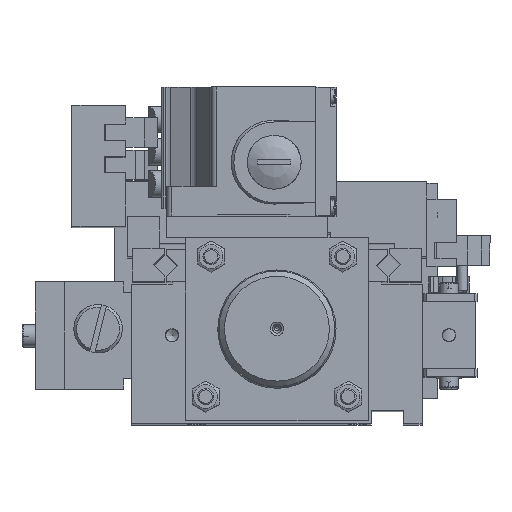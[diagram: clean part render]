
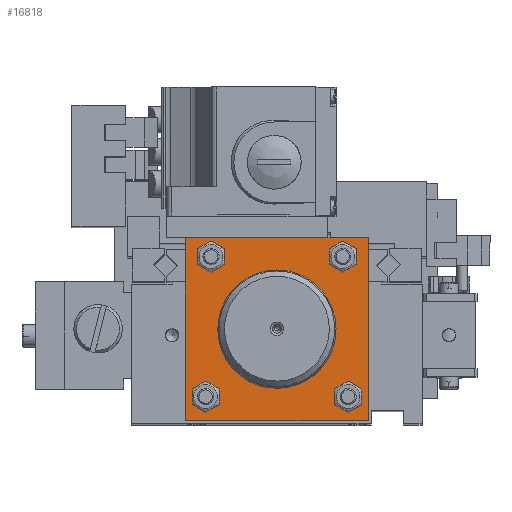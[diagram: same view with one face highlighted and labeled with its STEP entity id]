
A CAD part, top view. The second image highlights one B-rep face of the part: STEP entity #16818.
In plain terms, the highlighted planar face has unit normal (0, 0, 1).
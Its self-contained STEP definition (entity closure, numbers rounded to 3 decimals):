
#8749=CARTESIAN_POINT('',(-18.646,34.,370.));
#8750=VERTEX_POINT('',#8749);
#8758=CARTESIAN_POINT('',(-16.354,34.,370.));
#8759=VERTEX_POINT('',#8758);
#9241=CARTESIAN_POINT('',(-30.646,34.,370.));
#9242=VERTEX_POINT('',#9241);
#9250=CARTESIAN_POINT('',(-28.354,34.,370.));
#9251=VERTEX_POINT('',#9250);
#9597=CARTESIAN_POINT('',(11.354,34.,370.));
#9598=VERTEX_POINT('',#9597);
#9606=CARTESIAN_POINT('',(13.646,34.,370.));
#9607=VERTEX_POINT('',#9606);
#10099=CARTESIAN_POINT('',(19.,34.,370.));
#10100=VERTEX_POINT('',#10099);
#10204=CARTESIAN_POINT('',(-34.,34.,370.));
#10205=VERTEX_POINT('',#10204);
#10206=CARTESIAN_POINT('',(-34.,34.,370.));
#10207=DIRECTION('',(1.0,0.0,0.0));
#10208=VECTOR('',#10207,3.354);
#10209=LINE('',#10206,#10208);
#10210=EDGE_CURVE('',#10205,#9242,#10209,.T.);
#10213=CARTESIAN_POINT('',(-28.354,34.,370.));
#10214=DIRECTION('',(1.0,0.0,0.0));
#10215=VECTOR('',#10214,9.709);
#10216=LINE('',#10213,#10215);
#10217=EDGE_CURVE('',#9251,#8750,#10216,.T.);
#10220=CARTESIAN_POINT('',(-16.354,34.,370.));
#10221=DIRECTION('',(1.0,0.0,0.0));
#10222=VECTOR('',#10221,27.709);
#10223=LINE('',#10220,#10222);
#10224=EDGE_CURVE('',#8759,#9598,#10223,.T.);
#10227=CARTESIAN_POINT('',(13.646,34.,370.));
#10228=DIRECTION('',(1.0,0.0,0.0));
#10229=VECTOR('',#10228,5.354);
#10230=LINE('',#10227,#10229);
#10231=EDGE_CURVE('',#9607,#10100,#10230,.T.);
#10305=CARTESIAN_POINT('',(34.,34.,370.));
#10306=VERTEX_POINT('',#10305);
#10307=CARTESIAN_POINT('',(19.,34.,370.));
#10308=DIRECTION('',(1.0,0.0,0.0));
#10309=VECTOR('',#10308,15.);
#10310=LINE('',#10307,#10309);
#10311=EDGE_CURVE('',#10100,#10306,#10310,.T.);
#10336=CARTESIAN_POINT('',(11.354,34.,370.));
#10337=DIRECTION('',(1.0,0.0,0.0));
#10338=VECTOR('',#10337,2.291);
#10339=LINE('',#10336,#10338);
#10340=EDGE_CURVE('',#9598,#9607,#10339,.T.);
#10352=CARTESIAN_POINT('',(-18.646,34.,370.));
#10353=DIRECTION('',(1.0,0.0,0.0));
#10354=VECTOR('',#10353,2.291);
#10355=LINE('',#10352,#10354);
#10356=EDGE_CURVE('',#8750,#8759,#10355,.T.);
#16721=CARTESIAN_POINT('',(0.,0.,370.));
#16722=DIRECTION('',(0.0,0.0,1.0));
#16723=DIRECTION('',(1.0,0.0,0.0));
#16724=AXIS2_PLACEMENT_3D('',#16721,#16722,#16723);
#16725=PLANE('',#16724);
#16726=CARTESIAN_POINT('',(34.,-34.,370.));
#16727=VERTEX_POINT('',#16726);
#16728=CARTESIAN_POINT('',(34.,34.,370.));
#16729=DIRECTION('',(0.0,-1.0,0.0));
#16730=VECTOR('',#16729,68.0);
#16731=LINE('',#16728,#16730);
#16732=EDGE_CURVE('',#10306,#16727,#16731,.T.);
#16733=ORIENTED_EDGE('',*,*,#16732,.F.);
#16734=ORIENTED_EDGE('',*,*,#10311,.F.);
#16735=ORIENTED_EDGE('',*,*,#10231,.F.);
#16736=ORIENTED_EDGE('',*,*,#10340,.F.);
#16737=ORIENTED_EDGE('',*,*,#10224,.F.);
#16738=ORIENTED_EDGE('',*,*,#10356,.F.);
#16739=ORIENTED_EDGE('',*,*,#10217,.F.);
#16740=CARTESIAN_POINT('',(-30.646,34.,370.));
#16741=DIRECTION('',(1.0,0.0,0.0));
#16742=VECTOR('',#16741,2.291);
#16743=LINE('',#16740,#16742);
#16744=EDGE_CURVE('',#9242,#9251,#16743,.T.);
#16745=ORIENTED_EDGE('',*,*,#16744,.F.);
#16746=ORIENTED_EDGE('',*,*,#10210,.F.);
#16747=CARTESIAN_POINT('',(-34.,-34.,370.));
#16748=VERTEX_POINT('',#16747);
#16749=CARTESIAN_POINT('',(-34.,-34.,370.));
#16750=DIRECTION('',(0.0,1.0,0.0));
#16751=VECTOR('',#16750,68.0);
#16752=LINE('',#16749,#16751);
#16753=EDGE_CURVE('',#16748,#10205,#16752,.T.);
#16754=ORIENTED_EDGE('',*,*,#16753,.F.);
#16755=CARTESIAN_POINT('',(34.,-34.,370.));
#16756=DIRECTION('',(-1.0,0.0,0.0));
#16757=VECTOR('',#16756,68.0);
#16758=LINE('',#16755,#16757);
#16759=EDGE_CURVE('',#16727,#16748,#16758,.T.);
#16760=ORIENTED_EDGE('',*,*,#16759,.F.);
#16761=EDGE_LOOP('',(#16733,#16734,#16735,#16736,#16737,#16738,#16739,#16745,#16746,#16754,#16760));
#16762=FACE_OUTER_BOUND('',#16761,.T.);
#16763=CARTESIAN_POINT('',(-16.932,14.046,370.));
#16764=VERTEX_POINT('',#16763);
#16765=CARTESIAN_POINT('',(0.,0.,370.));
#16766=DIRECTION('',(0.,0.,-1.0));
#16767=DIRECTION('',(-0.77,0.638,0.));
#16768=AXIS2_PLACEMENT_3D('',#16765,#16766,#16767);
#16769=CIRCLE('',#16768,22.);
#16770=EDGE_CURVE('',#16764,#16764,#16769,.T.);
#16771=ORIENTED_EDGE('',*,*,#16770,.T.);
#16772=EDGE_LOOP('',(#16771));
#16773=FACE_BOUND('',#16772,.T.);
#16774=CARTESIAN_POINT('',(26.5,-29.5,370.));
#16775=VERTEX_POINT('',#16774);
#16776=CARTESIAN_POINT('',(26.5,-25.1,370.));
#16777=DIRECTION('',(0.0,0.0,-1.0));
#16778=DIRECTION('',(0.0,-1.0,0.0));
#16779=AXIS2_PLACEMENT_3D('',#16776,#16777,#16778);
#16780=CIRCLE('',#16779,4.4);
#16781=EDGE_CURVE('',#16775,#16775,#16780,.T.);
#16782=ORIENTED_EDGE('',*,*,#16781,.T.);
#16783=EDGE_LOOP('',(#16782));
#16784=FACE_BOUND('',#16783,.T.);
#16785=CARTESIAN_POINT('',(-24.5,22.6,370.));
#16786=VERTEX_POINT('',#16785);
#16787=CARTESIAN_POINT('',(-24.5,27.,370.));
#16788=DIRECTION('',(0.0,0.0,-1.0));
#16789=DIRECTION('',(0.0,-1.0,0.0));
#16790=AXIS2_PLACEMENT_3D('',#16787,#16788,#16789);
#16791=CIRCLE('',#16790,4.4);
#16792=EDGE_CURVE('',#16786,#16786,#16791,.T.);
#16793=ORIENTED_EDGE('',*,*,#16792,.T.);
#16794=EDGE_LOOP('',(#16793));
#16795=FACE_BOUND('',#16794,.T.);
#16796=CARTESIAN_POINT('',(-26.5,-29.5,370.));
#16797=VERTEX_POINT('',#16796);
#16798=CARTESIAN_POINT('',(-26.5,-25.1,370.));
#16799=DIRECTION('',(0.0,0.0,-1.0));
#16800=DIRECTION('',(0.0,-1.0,0.0));
#16801=AXIS2_PLACEMENT_3D('',#16798,#16799,#16800);
#16802=CIRCLE('',#16801,4.4);
#16803=EDGE_CURVE('',#16797,#16797,#16802,.T.);
#16804=ORIENTED_EDGE('',*,*,#16803,.T.);
#16805=EDGE_LOOP('',(#16804));
#16806=FACE_BOUND('',#16805,.T.);
#16807=CARTESIAN_POINT('',(24.5,22.6,370.));
#16808=VERTEX_POINT('',#16807);
#16809=CARTESIAN_POINT('',(24.5,27.,370.));
#16810=DIRECTION('',(0.0,0.0,-1.0));
#16811=DIRECTION('',(0.0,-1.0,0.0));
#16812=AXIS2_PLACEMENT_3D('',#16809,#16810,#16811);
#16813=CIRCLE('',#16812,4.4);
#16814=EDGE_CURVE('',#16808,#16808,#16813,.T.);
#16815=ORIENTED_EDGE('',*,*,#16814,.T.);
#16816=EDGE_LOOP('',(#16815));
#16817=FACE_BOUND('',#16816,.T.);
#16818=ADVANCED_FACE('',(#16762,#16773,#16784,#16795,#16806,#16817),#16725,.T.);
